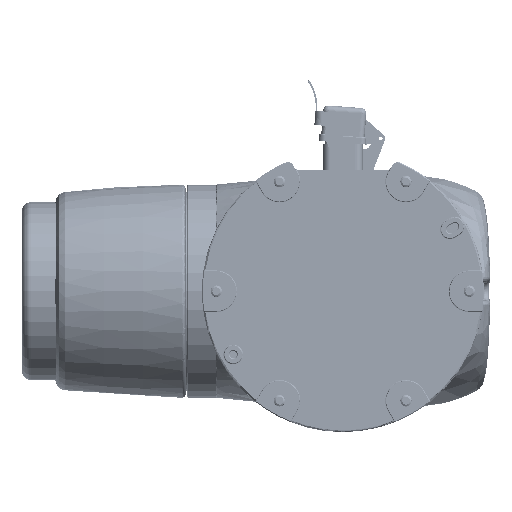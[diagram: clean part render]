
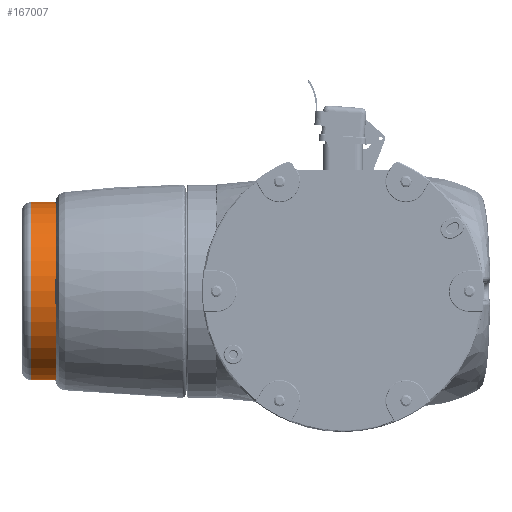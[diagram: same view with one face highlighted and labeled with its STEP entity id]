
A CAD part, front view. The second image highlights one B-rep face of the part: STEP entity #167007.
In plain terms, the highlighted cylindrical face has radius 49.25 mm (diameter 98.5 mm), a partial arc.
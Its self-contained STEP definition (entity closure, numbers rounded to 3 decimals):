
#225 = DIRECTION ( 'NONE',  ( 1., 0., 0. ) ) ;
#19572 = ORIENTED_EDGE ( 'NONE', *, *, #174891, .T. ) ;
#39070 = DIRECTION ( 'NONE',  ( 1., 0., 0. ) ) ;
#64719 = CARTESIAN_POINT ( 'NONE',  ( -0.5, 0., -49.25 ) ) ;
#71357 = VECTOR ( 'NONE', #187350, 1000. ) ;
#72781 = LINE ( 'NONE', #167057, #372292 ) ;
#76645 = AXIS2_PLACEMENT_3D ( 'NONE', #377274, #225, #282969 ) ;
#84094 = ORIENTED_EDGE ( 'NONE', *, *, #292296, .F. ) ;
#104654 = CARTESIAN_POINT ( 'NONE',  ( -0.5, 0., 49.25 ) ) ;
#112583 = EDGE_CURVE ( 'NONE', #152649, #353969, #271466, .T. ) ;
#152649 = VERTEX_POINT ( 'NONE', #379740 ) ;
#167007 = ADVANCED_FACE ( 'NONE', ( #408711 ), #253635, .T. ) ;
#167057 = CARTESIAN_POINT ( 'NONE',  ( -20., 0., 49.25 ) ) ;
#168820 = DIRECTION ( 'NONE',  ( 0., 0., -1. ) ) ;
#174891 = EDGE_CURVE ( 'NONE', #353969, #335892, #72781, .T. ) ;
#187350 = DIRECTION ( 'NONE',  ( 1., 0., 0. ) ) ;
#194081 = CARTESIAN_POINT ( 'NONE',  ( -15., 0., 0. ) ) ;
#200563 = CARTESIAN_POINT ( 'NONE',  ( -15., 0., 49.25 ) ) ;
#227840 = CARTESIAN_POINT ( 'NONE',  ( -0.5, 0., 0. ) ) ;
#229738 = AXIS2_PLACEMENT_3D ( 'NONE', #227840, #261355, #294810 ) ;
#232645 = ORIENTED_EDGE ( 'NONE', *, *, #242557, .T. ) ;
#242557 = EDGE_CURVE ( 'NONE', #335892, #412257, #390363, .T. ) ;
#253635 = CYLINDRICAL_SURFACE ( 'NONE', #76645, 49.25 ) ;
#261355 = DIRECTION ( 'NONE',  ( -1., 0., 0. ) ) ;
#265456 = DIRECTION ( 'NONE',  ( 1., 0., 0. ) ) ;
#271466 = CIRCLE ( 'NONE', #366007, 49.25 ) ;
#282969 = DIRECTION ( 'NONE',  ( 0., 0., -1. ) ) ;
#292296 = EDGE_CURVE ( 'NONE', #152649, #412257, #409419, .T. ) ;
#294810 = DIRECTION ( 'NONE',  ( 0., 0., -1. ) ) ;
#335892 = VERTEX_POINT ( 'NONE', #104654 ) ;
#353969 = VERTEX_POINT ( 'NONE', #200563 ) ;
#366007 = AXIS2_PLACEMENT_3D ( 'NONE', #194081, #39070, #168820 ) ;
#366422 = ORIENTED_EDGE ( 'NONE', *, *, #112583, .T. ) ;
#372292 = VECTOR ( 'NONE', #265456, 1000. ) ;
#377274 = CARTESIAN_POINT ( 'NONE',  ( -20., 0., 0. ) ) ;
#379740 = CARTESIAN_POINT ( 'NONE',  ( -15., 0., -49.25 ) ) ;
#387012 = EDGE_LOOP ( 'NONE', ( #366422, #19572, #232645, #84094 ) ) ;
#390363 = CIRCLE ( 'NONE', #229738, 49.25 ) ;
#408711 = FACE_OUTER_BOUND ( 'NONE', #387012, .T. ) ;
#409419 = LINE ( 'NONE', #411476, #71357 ) ;
#411476 = CARTESIAN_POINT ( 'NONE',  ( -20., 0., -49.25 ) ) ;
#412257 = VERTEX_POINT ( 'NONE', #64719 ) ;
